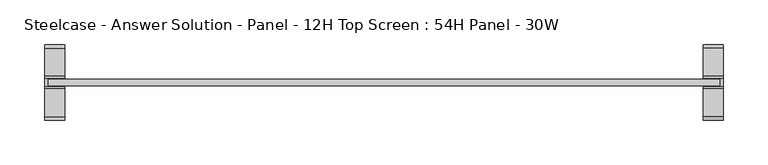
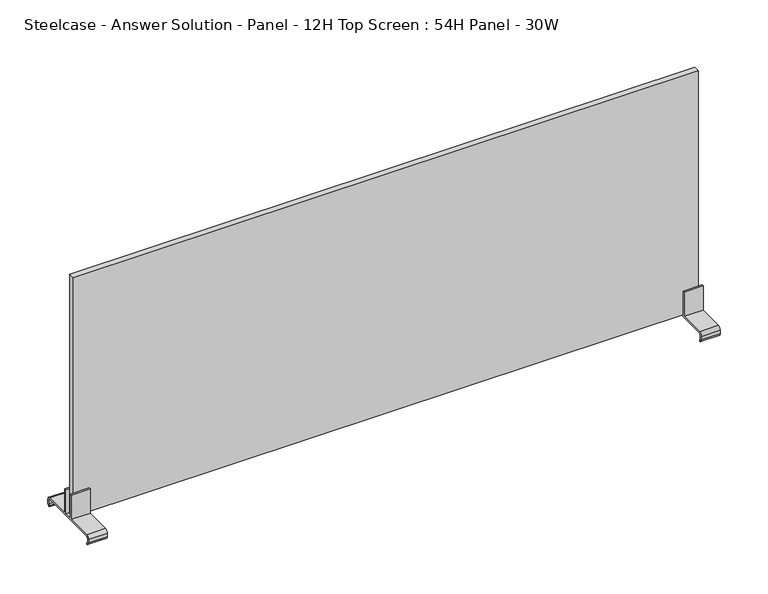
"""IFC4 building model written with IfcOpenShell, lengths in millimetres: furniture geometry, Steelcase - Answer Solution - Panel - 12H Top Screen : 54H Panel - 30W."""

from ifc_helpers import new_model, si_unit, point, frame, frame_2d, origin, place, context, project, spatial, polyline, circle_curve, trimmed, segment, composite_curve, outline, extrude, source, transform, mapped, element, save


def steelcase_answer_solution_panel_12h_top_screen_54h_panel_30w_b3f2ed33(model_context):
    return source(origin(), model_context, "Body", "SweptSolid", [
        extrude(outline(polyline([(376.936, -3.683001), (-376.936, -3.683001), (-376.936, 3.683001), (376.936, 3.683001), (376.936, -3.683001)])), frame((0.0, 0.0, 1379.9819981), z_axis=(0.0, 0.0, 1.0), x_axis=(1.0, 0.0, 0.0)), (0.0, 0.0, 1.0), 304.8),
        extrude(outline(composite_curve([segment(trimmed(circle_curve(frame_2d((38.5445, 1376.045)), 1.905), [point((40.4495, 1376.045))], [point((38.5445, 1377.95))], True, "CARTESIAN"), True, "CONTINUOUS"), segment(polyline([(38.5445, 1377.95), (-38.5445, 1377.95)]), True, "CONTINUOUS"), segment(trimmed(circle_curve(frame_2d((-38.5445, 1376.045)), 1.905), [point((-38.5445, 1377.95))], [point((-40.4495, 1376.045))], True, "CARTESIAN"), True, "CONTINUOUS"), segment(polyline([(-40.4495, 1376.045), (-40.4495, 1371.4341187)]), True, "CONTINUOUS"), segment(trimmed(circle_curve(frame_2d((-38.5445, 1371.4341187)), 1.905), [point((-40.4495, 1371.4341187))], [point((-38.6743328, 1369.5335481))], True, "CARTESIAN"), True, "CONTINUOUS"), segment(polyline([(-38.6743328, 1369.5335481), (-39.2392449, 1367.9535566)]), True, "CONTINUOUS"), segment(trimmed(circle_curve(frame_2d((-38.5459934, 1371.8284569)), 3.9364261), [point((-39.2392449, 1367.9535566))], [point((-42.4824195, 1371.8284569))], False, "CARTESIAN"), True, "CONTINUOUS"), segment(polyline([(-42.4824195, 1371.8284569), (-42.4824195, 1376.0452288)]), True, "CONTINUOUS"), segment(trimmed(circle_curve(frame_2d((-38.5459934, 1376.0452288)), 3.9364261), [point((-42.4824195, 1376.0452288))], [point((-38.5459934, 1379.9816549))], False, "CARTESIAN"), True, "CONTINUOUS"), segment(polyline([(-38.5459934, 1379.9816549), (-6.7310004, 1379.9816549), (-6.7310004, 1410.9699952), (-4.699, 1410.9699952), (-4.699, 1379.9819952), (4.699, 1379.9819952), (4.699, 1410.9700048), (6.7310004, 1410.9700048), (6.7310004, 1379.9816549), (38.5459934, 1379.9816549)]), True, "CONTINUOUS"), segment(trimmed(circle_curve(frame_2d((38.5459934, 1376.0452288)), 3.9364261), [point((38.5459934, 1379.9816549))], [point((42.4824195, 1376.0452288))], False, "CARTESIAN"), True, "CONTINUOUS"), segment(polyline([(42.4824195, 1376.0452288), (42.4824195, 1371.8284569)]), True, "CONTINUOUS"), segment(trimmed(circle_curve(frame_2d((38.5459934, 1371.8284569)), 3.9364261), [point((42.4824195, 1371.8284569))], [point((39.6631716, 1368.0538889))], False, "CARTESIAN"), True, "CONTINUOUS"), segment(polyline([(39.6631716, 1368.0538889), (39.1055128, 1369.6135996)]), True, "CONTINUOUS"), segment(trimmed(circle_curve(frame_2d((38.5445, 1371.4341187)), 1.905), [point((39.1055128, 1369.6135996))], [point((40.4495, 1371.4341187))], True, "CARTESIAN"), True, "CONTINUOUS"), segment(polyline([(40.4495, 1371.4341187), (40.4495, 1376.045)]), True, "CONTINUOUS")], self_intersect=False)), frame((358.394, 0.0, 0.0), z_axis=(1.0, 0.0, 0.0), x_axis=(0.0, 1.0, 0.0)), (0.0, 0.0, 1.0), 22.606),
        extrude(outline(composite_curve([segment(trimmed(circle_curve(frame_2d((38.5445, 1376.045)), 1.905), [point((40.4495, 1376.045))], [point((38.5445, 1377.95))], True, "CARTESIAN"), True, "CONTINUOUS"), segment(polyline([(38.5445, 1377.95), (-38.5445, 1377.95)]), True, "CONTINUOUS"), segment(trimmed(circle_curve(frame_2d((-38.5445, 1376.045)), 1.905), [point((-38.5445, 1377.95))], [point((-40.4495, 1376.045))], True, "CARTESIAN"), True, "CONTINUOUS"), segment(polyline([(-40.4495, 1376.045), (-40.4495, 1371.4341187)]), True, "CONTINUOUS"), segment(trimmed(circle_curve(frame_2d((-38.5445, 1371.4341187)), 1.905), [point((-40.4495, 1371.4341187))], [point((-38.6743328, 1369.5335481))], True, "CARTESIAN"), True, "CONTINUOUS"), segment(polyline([(-38.6743328, 1369.5335481), (-39.2392449, 1367.9535566)]), True, "CONTINUOUS"), segment(trimmed(circle_curve(frame_2d((-38.5459934, 1371.8284569)), 3.9364261), [point((-39.2392449, 1367.9535566))], [point((-42.4824195, 1371.8284569))], False, "CARTESIAN"), True, "CONTINUOUS"), segment(polyline([(-42.4824195, 1371.8284569), (-42.4824195, 1376.0452288)]), True, "CONTINUOUS"), segment(trimmed(circle_curve(frame_2d((-38.5459934, 1376.0452288)), 3.9364261), [point((-42.4824195, 1376.0452288))], [point((-38.5459934, 1379.9816549))], False, "CARTESIAN"), True, "CONTINUOUS"), segment(polyline([(-38.5459934, 1379.9816549), (-6.7310004, 1379.9816549), (-6.7310004, 1410.9699952), (-4.699, 1410.9699952), (-4.699, 1379.9819952), (4.699, 1379.9819952), (4.699, 1410.9700048), (6.7310004, 1410.9700048), (6.7310004, 1379.9816549), (38.5459934, 1379.9816549)]), True, "CONTINUOUS"), segment(trimmed(circle_curve(frame_2d((38.5459934, 1376.0452288)), 3.9364261), [point((38.5459934, 1379.9816549))], [point((42.4824195, 1376.0452288))], False, "CARTESIAN"), True, "CONTINUOUS"), segment(polyline([(42.4824195, 1376.0452288), (42.4824195, 1371.8284569)]), True, "CONTINUOUS"), segment(trimmed(circle_curve(frame_2d((38.5459934, 1371.8284569)), 3.9364261), [point((42.4824195, 1371.8284569))], [point((39.6631716, 1368.0538889))], False, "CARTESIAN"), True, "CONTINUOUS"), segment(polyline([(39.6631716, 1368.0538889), (39.1055128, 1369.6135996)]), True, "CONTINUOUS"), segment(trimmed(circle_curve(frame_2d((38.5445, 1371.4341187)), 1.905), [point((39.1055128, 1369.6135996))], [point((40.4495, 1371.4341187))], True, "CARTESIAN"), True, "CONTINUOUS"), segment(polyline([(40.4495, 1371.4341187), (40.4495, 1376.045)]), True, "CONTINUOUS")], self_intersect=False)), frame((-381.0, 0.0, 0.0), z_axis=(1.0, 0.0, 0.0), x_axis=(0.0, 1.0, 0.0)), (0.0, 0.0, 1.0), 22.606),
    ])


if __name__ == "__main__":
    model = new_model("IFC4")
    model_context = context("Model", 3, world=origin())
    ifc_project = project(units=[si_unit("LENGTHUNIT", "METRE", prefix="MILLI")], contexts=[model_context])
    site = spatial("IfcSite", under=ifc_project)
    building = spatial("IfcBuilding", under=site)
    placement = place(None, origin())
    steelcase_answer_solution_panel_12h_top_screen_54h_panel_30w_shape = steelcase_answer_solution_panel_12h_top_screen_54h_panel_30w_b3f2ed33(model_context)
    element("IfcFurniture", 1, ObjectType="Steelcase - Answer Solution - Panel - 12H Top Screen : 54H Panel - 30W", at=placement, inside=building, context=model_context, shape_type="MappedRepresentation", body=[
        mapped(steelcase_answer_solution_panel_12h_top_screen_54h_panel_30w_shape, transform((0.0, 0.0, 0.0), x_axis=(1.0, 0.0, 0.0), y_axis=(0.0, 1.0, 0.0), z_axis=(0.0, 0.0, 1.0))),
    ])
    save(model, "model.ifc")
